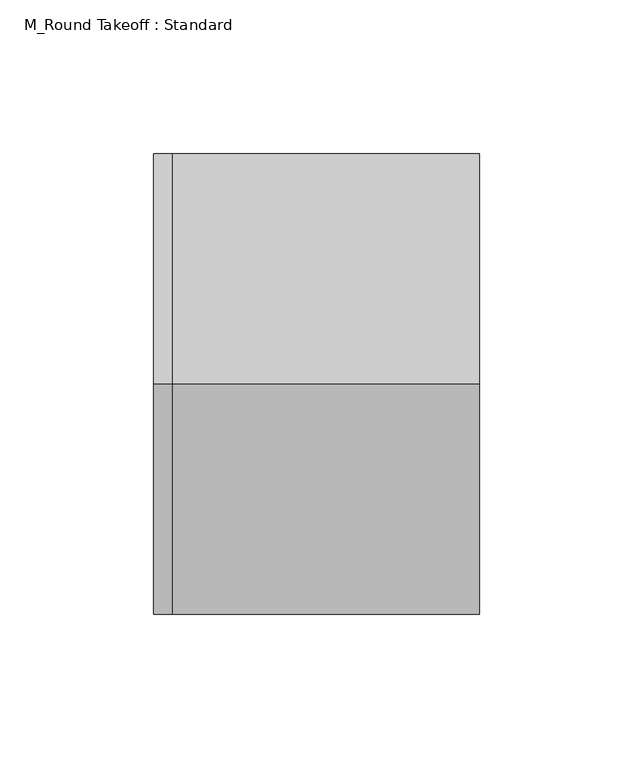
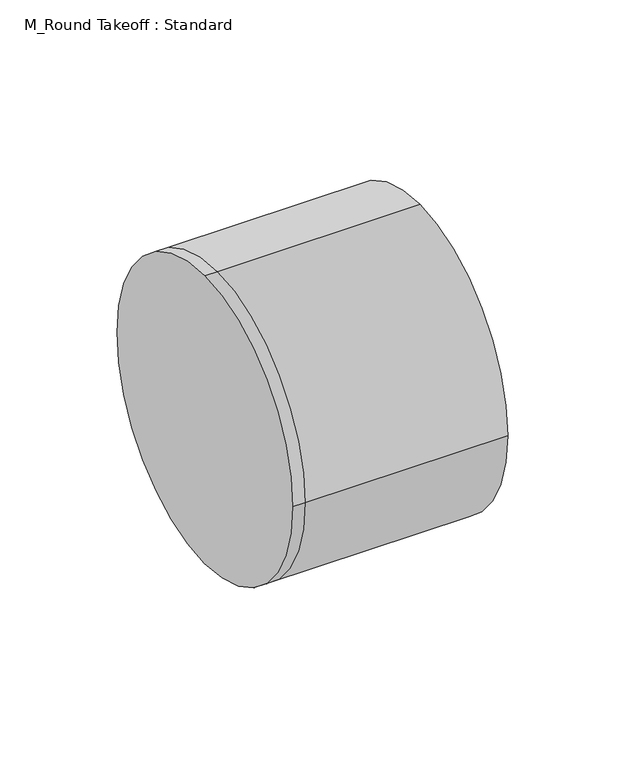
"""IFC4 building model written with IfcOpenShell, lengths in millimetres: duct fitting geometry, M_Round Takeoff : Standard."""

from ifc_helpers import new_model, si_unit, frame, origin, place, context, project, spatial, circle_curve, source, transform, mapped, element, save
from ifc_brep_helpers import plane_surface, cylinder_surface, advanced_brep


def m_round_takeoff_standard_3add244a(model_context):
    return source(origin(), model_context, "Body", "AdvancedBrep", [
        advanced_brep(
        [(-6.1002039, 0.0, 75.0), (-6.1002039, 75.0, 0.0), (-6.1002039, 0.0, -75.0), (-6.1002039, -75.0, 0.0), (0.0, 0.0, 75.0), (0.0, 75.0, 0.0), (0.0, 0.0, -75.0), (0.0, -75.0, 0.0), (100.0042039, 0.0, 75.0), (100.0042039, -75.0, 0.0), (100.0042039, 0.0, -75.0), (100.0042039, 75.0, 0.0)],
        [
            (0, 1, circle_curve(frame((-6.1002039, 0.0, 0.0), z_axis=(-1.0, 0.0, 0.0), x_axis=(0.0, 1.0, 0.0)), 75.0)),
            (1, 2, circle_curve(frame((-6.1002039, 0.0, 0.0), z_axis=(-1.0, 0.0, 0.0), x_axis=(0.0, 1.0, 0.0)), 75.0)),
            (2, 3, circle_curve(frame((-6.1002039, 0.0, 0.0), z_axis=(-1.0, 0.0, 0.0), x_axis=(0.0, 1.0, 0.0)), 75.0)),
            (3, 0, circle_curve(frame((-6.1002039, 0.0, 0.0), z_axis=(-1.0, 0.0, 0.0), x_axis=(0.0, 1.0, 0.0)), 75.0)),
            (0, 4),
            (4, 5, circle_curve(frame((0.0, 0.0, 0.0), z_axis=(-1.0, 0.0, 0.0), x_axis=(0.0, 1.0, 0.0)), 75.0)),
            (5, 1),
            (5, 6, circle_curve(frame((0.0, 0.0, 0.0), z_axis=(-1.0, 0.0, 0.0), x_axis=(0.0, 1.0, 0.0)), 75.0)),
            (6, 2),
            (6, 7, circle_curve(frame((0.0, 0.0, 0.0), z_axis=(-1.0, 0.0, 0.0), x_axis=(0.0, 1.0, 0.0)), 75.0)),
            (7, 3),
            (7, 4, circle_curve(frame((0.0, 0.0, 0.0), z_axis=(-1.0, 0.0, 0.0), x_axis=(0.0, 1.0, 0.0)), 75.0)),
            (8, 9, circle_curve(frame((100.0042039, 0.0, 0.0), z_axis=(1.0, 0.0, 0.0), x_axis=(0.0, 1.0, 0.0)), 75.0)),
            (9, 10, circle_curve(frame((100.0042039, 0.0, 0.0), z_axis=(1.0, 0.0, 0.0), x_axis=(0.0, 1.0, 0.0)), 75.0)),
            (10, 11, circle_curve(frame((100.0042039, 0.0, 0.0), z_axis=(1.0, 0.0, 0.0), x_axis=(0.0, 1.0, 0.0)), 75.0)),
            (11, 8, circle_curve(frame((100.0042039, 0.0, 0.0), z_axis=(1.0, 0.0, 0.0), x_axis=(0.0, 1.0, 0.0)), 75.0)),
            (11, 5),
            (4, 8),
            (10, 6),
            (9, 7),
        ],
        [
            plane_surface(frame((-6.1002039, 0.0, 0.0), z_axis=(-1.0, 0.0, 0.0), x_axis=(0.0, 0.0, 1.0))),
            cylinder_surface(frame((-6.1002039, 0.0, 0.0), z_axis=(-1.0, 0.0, 0.0), x_axis=(0.0, 1.0, 0.0)), 75.0),
            plane_surface(frame((100.0042039, 0.0, 0.0), z_axis=(1.0, 0.0, 0.0), x_axis=(0.0, 0.0, 1.0))),
            cylinder_surface(frame((0.0, 0.0, 0.0), z_axis=(-1.0, 0.0, 0.0), x_axis=(0.0, 1.0, 0.0)), 75.0),
        ],
        [
            (0, [[1, 2, 3, 4]]),
            (1, [[-1, 5, 6, 7]]),
            (1, [[-2, -7, 8, 9]]),
            (1, [[-3, -9, 10, 11]]),
            (1, [[-4, -11, 12, -5]]),
            (2, [[13, 14, 15, 16]]),
            (3, [[-16, 17, -6, 18]]),
            (3, [[-15, 19, -8, -17]]),
            (3, [[-14, 20, -10, -19]]),
            (3, [[-13, -18, -12, -20]]),
        ],
    ),
        advanced_brep(
        [(100.0042039, 0.0, 75.0), (100.0042039, -75.0, 0.0), (100.0042039, 0.0, -75.0), (100.0042039, 75.0, 0.0), (0.0, 75.0, 0.0), (0.0, 0.0, 75.0), (0.0, 0.0, -75.0), (0.0, -75.0, 0.0), (-6.1002039, 0.0, 75.0), (-6.1002039, 75.0, 0.0), (-6.1002039, 0.0, -75.0), (-6.1002039, -75.0, 0.0)],
        [
            (0, 1, circle_curve(frame((100.0042039, 0.0, 0.0), z_axis=(1.0, 0.0, 0.0), x_axis=(0.0, 1.0, 0.0)), 75.0)),
            (1, 2, circle_curve(frame((100.0042039, 0.0, 0.0), z_axis=(1.0, 0.0, 0.0), x_axis=(0.0, 1.0, 0.0)), 75.0)),
            (2, 3, circle_curve(frame((100.0042039, 0.0, 0.0), z_axis=(1.0, 0.0, 0.0), x_axis=(0.0, 1.0, 0.0)), 75.0)),
            (3, 0, circle_curve(frame((100.0042039, 0.0, 0.0), z_axis=(1.0, 0.0, 0.0), x_axis=(0.0, 1.0, 0.0)), 75.0)),
            (3, 4),
            (4, 5, circle_curve(frame((0.0, 0.0, 0.0), z_axis=(1.0, 0.0, 0.0), x_axis=(0.0, 1.0, 0.0)), 75.0)),
            (5, 0),
            (2, 6),
            (6, 4, circle_curve(frame((0.0, 0.0, 0.0), z_axis=(1.0, 0.0, 0.0), x_axis=(0.0, 1.0, 0.0)), 75.0)),
            (1, 7),
            (7, 6, circle_curve(frame((0.0, 0.0, 0.0), z_axis=(1.0, 0.0, 0.0), x_axis=(0.0, 1.0, 0.0)), 75.0)),
            (5, 7, circle_curve(frame((0.0, 0.0, 0.0), z_axis=(1.0, 0.0, 0.0), x_axis=(0.0, 1.0, 0.0)), 75.0)),
            (8, 9, circle_curve(frame((-6.1002039, 0.0, 0.0), z_axis=(-1.0, 0.0, 0.0), x_axis=(0.0, 1.0, 0.0)), 75.0)),
            (9, 10, circle_curve(frame((-6.1002039, 0.0, 0.0), z_axis=(-1.0, 0.0, 0.0), x_axis=(0.0, 1.0, 0.0)), 75.0)),
            (10, 11, circle_curve(frame((-6.1002039, 0.0, 0.0), z_axis=(-1.0, 0.0, 0.0), x_axis=(0.0, 1.0, 0.0)), 75.0)),
            (11, 8, circle_curve(frame((-6.1002039, 0.0, 0.0), z_axis=(-1.0, 0.0, 0.0), x_axis=(0.0, 1.0, 0.0)), 75.0)),
            (8, 5),
            (4, 9),
            (6, 10),
            (7, 11),
        ],
        [
            plane_surface(frame((100.0042039, 0.0, 0.0), z_axis=(1.0, 0.0, 0.0), x_axis=(0.0, 0.0, 1.0))),
            cylinder_surface(frame((0.0, 0.0, 0.0), z_axis=(-1.0, 0.0, 0.0), x_axis=(0.0, 1.0, 0.0)), 75.0),
            plane_surface(frame((-6.1002039, 0.0, 0.0), z_axis=(-1.0, 0.0, 0.0), x_axis=(0.0, 0.0, 1.0))),
            cylinder_surface(frame((-6.1002039, 0.0, 0.0), z_axis=(-1.0, 0.0, 0.0), x_axis=(0.0, 1.0, 0.0)), 75.0),
        ],
        [
            (0, [[1, 2, 3, 4]]),
            (1, [[-4, 5, 6, 7]]),
            (1, [[-3, 8, 9, -5]]),
            (1, [[-2, 10, 11, -8]]),
            (1, [[-1, -7, 12, -10]]),
            (2, [[13, 14, 15, 16]]),
            (3, [[-13, 17, -6, 18]]),
            (3, [[-14, -18, -9, 19]]),
            (3, [[-15, -19, -11, 20]]),
            (3, [[-16, -20, -12, -17]]),
        ],
    ),
        advanced_brep(
        [(-6.1002039, 0.0, 75.0), (-6.1002039, 75.0, 0.0), (-6.1002039, 0.0, -75.0), (-6.1002039, -75.0, 0.0), (0.0, 0.0, 75.0), (0.0, 75.0, 0.0), (0.0, 0.0, -75.0), (0.0, -75.0, 0.0), (100.0042039, 0.0, 75.0), (100.0042039, -75.0, 0.0), (100.0042039, 0.0, -75.0), (100.0042039, 75.0, 0.0)],
        [
            (0, 1, circle_curve(frame((-6.1002039, 0.0, 0.0), z_axis=(-1.0, 0.0, 0.0), x_axis=(0.0, 1.0, 0.0)), 75.0)),
            (1, 2, circle_curve(frame((-6.1002039, 0.0, 0.0), z_axis=(-1.0, 0.0, 0.0), x_axis=(0.0, 1.0, 0.0)), 75.0)),
            (2, 3, circle_curve(frame((-6.1002039, 0.0, 0.0), z_axis=(-1.0, 0.0, 0.0), x_axis=(0.0, 1.0, 0.0)), 75.0)),
            (3, 0, circle_curve(frame((-6.1002039, 0.0, 0.0), z_axis=(-1.0, 0.0, 0.0), x_axis=(0.0, 1.0, 0.0)), 75.0)),
            (0, 4),
            (4, 5, circle_curve(frame((0.0, 0.0, 0.0), z_axis=(-1.0, 0.0, 0.0), x_axis=(0.0, 1.0, 0.0)), 75.0)),
            (5, 1),
            (5, 6, circle_curve(frame((0.0, 0.0, 0.0), z_axis=(-1.0, 0.0, 0.0), x_axis=(0.0, 1.0, 0.0)), 75.0)),
            (6, 2),
            (6, 7, circle_curve(frame((0.0, 0.0, 0.0), z_axis=(-1.0, 0.0, 0.0), x_axis=(0.0, 1.0, 0.0)), 75.0)),
            (7, 3),
            (7, 4, circle_curve(frame((0.0, 0.0, 0.0), z_axis=(-1.0, 0.0, 0.0), x_axis=(0.0, 1.0, 0.0)), 75.0)),
            (8, 9, circle_curve(frame((100.0042039, 0.0, 0.0), z_axis=(1.0, 0.0, 0.0), x_axis=(0.0, 1.0, 0.0)), 75.0)),
            (9, 10, circle_curve(frame((100.0042039, 0.0, 0.0), z_axis=(1.0, 0.0, 0.0), x_axis=(0.0, 1.0, 0.0)), 75.0)),
            (10, 11, circle_curve(frame((100.0042039, 0.0, 0.0), z_axis=(1.0, 0.0, 0.0), x_axis=(0.0, 1.0, 0.0)), 75.0)),
            (11, 8, circle_curve(frame((100.0042039, 0.0, 0.0), z_axis=(1.0, 0.0, 0.0), x_axis=(0.0, 1.0, 0.0)), 75.0)),
            (11, 5),
            (4, 8),
            (10, 6),
            (9, 7),
        ],
        [
            plane_surface(frame((-6.1002039, 0.0, 0.0), z_axis=(-1.0, 0.0, 0.0), x_axis=(0.0, 0.0, 1.0))),
            cylinder_surface(frame((-6.1002039, 0.0, 0.0), z_axis=(-1.0, 0.0, 0.0), x_axis=(0.0, 1.0, 0.0)), 75.0),
            plane_surface(frame((100.0042039, 0.0, 0.0), z_axis=(1.0, 0.0, 0.0), x_axis=(0.0, 0.0, 1.0))),
            cylinder_surface(frame((0.0, 0.0, 0.0), z_axis=(-1.0, 0.0, 0.0), x_axis=(0.0, 1.0, 0.0)), 75.0),
        ],
        [
            (0, [[1, 2, 3, 4]]),
            (1, [[-1, 5, 6, 7]]),
            (1, [[-2, -7, 8, 9]]),
            (1, [[-3, -9, 10, 11]]),
            (1, [[-4, -11, 12, -5]]),
            (2, [[13, 14, 15, 16]]),
            (3, [[-16, 17, -6, 18]]),
            (3, [[-15, 19, -8, -17]]),
            (3, [[-14, 20, -10, -19]]),
            (3, [[-13, -18, -12, -20]]),
        ],
    ),
    ])


if __name__ == "__main__":
    model = new_model("IFC4")
    model_context = context("Model", 3, world=origin())
    ifc_project = project(units=[si_unit("LENGTHUNIT", "METRE", prefix="MILLI")], contexts=[model_context])
    site = spatial("IfcSite", under=ifc_project)
    building = spatial("IfcBuilding", under=site)
    placement = place(None, origin())
    m_round_takeoff_standard_shape = m_round_takeoff_standard_3add244a(model_context)
    element("IfcDuctFitting", 1, ObjectType="M_Round Takeoff : Standard", at=placement, inside=building, context=model_context, shape_type="MappedRepresentation", body=[
        mapped(m_round_takeoff_standard_shape, transform((0.0, 0.0, 0.0), x_axis=(1.0, 0.0, 0.0), y_axis=(0.0, 1.0, 0.0), z_axis=(0.0, 0.0, 1.0))),
    ])
    save(model, "model.ifc")
